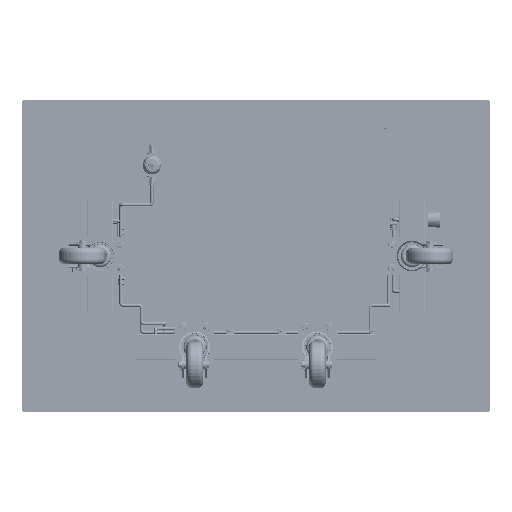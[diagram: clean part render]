
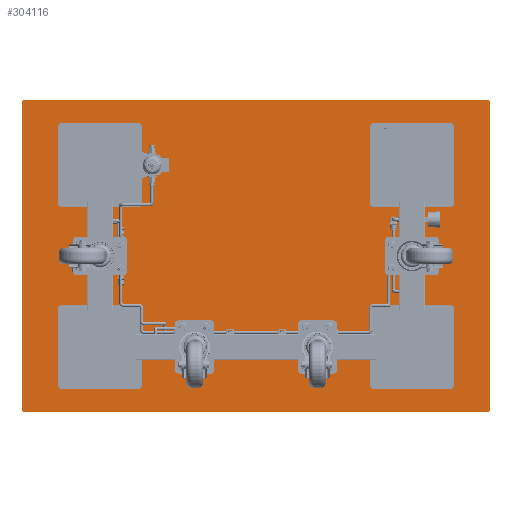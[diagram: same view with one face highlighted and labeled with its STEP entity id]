
A CAD part, front view. The second image highlights one B-rep face of the part: STEP entity #304116.
In plain terms, the highlighted planar face has unit normal (0, -1, 0).
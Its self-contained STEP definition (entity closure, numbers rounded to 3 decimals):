
#2189 = VECTOR ( 'NONE', #329105, 1000. ) ;
#10232 = DIRECTION ( 'NONE',  ( -1., 0., 0. ) ) ;
#11492 = VERTEX_POINT ( 'NONE', #322490 ) ;
#19999 = CARTESIAN_POINT ( 'NONE',  ( 450., 700., 295. ) ) ;
#39843 = ORIENTED_EDGE ( 'NONE', *, *, #289978, .F. ) ;
#52224 = AXIS2_PLACEMENT_3D ( 'NONE', #154034, #374374, #185591 ) ;
#57764 = LINE ( 'NONE', #19999, #235204 ) ;
#58341 = DIRECTION ( 'NONE',  ( 0., 1., 0. ) ) ;
#61142 = CARTESIAN_POINT ( 'NONE',  ( -445., 700., -300. ) ) ;
#77622 = EDGE_CURVE ( 'NONE', #267279, #284859, #330890, .T. ) ;
#82677 = CIRCLE ( 'NONE', #227233, 5. ) ;
#105727 = CARTESIAN_POINT ( 'NONE',  ( -445., 700., 300. ) ) ;
#120827 = VECTOR ( 'NONE', #406858, 1000. ) ;
#124964 = VERTEX_POINT ( 'NONE', #219047 ) ;
#134156 = VERTEX_POINT ( 'NONE', #360869 ) ;
#140451 = CARTESIAN_POINT ( 'NONE',  ( -450., 700., 295. ) ) ;
#144813 = DIRECTION ( 'NONE',  ( 0., 1., 0. ) ) ;
#148581 = AXIS2_PLACEMENT_3D ( 'NONE', #181942, #402392, #213641 ) ;
#149015 = CARTESIAN_POINT ( 'NONE',  ( 445., 700., -300. ) ) ;
#154034 = CARTESIAN_POINT ( 'NONE',  ( 445., 700., 295. ) ) ;
#155446 = VECTOR ( 'NONE', #324733, 1000. ) ;
#159832 = LINE ( 'NONE', #140451, #2189 ) ;
#165333 = LINE ( 'NONE', #105727, #155446 ) ;
#181942 = CARTESIAN_POINT ( 'NONE',  ( -445., 700., -295. ) ) ;
#185591 = DIRECTION ( 'NONE',  ( 1., 0., 0. ) ) ;
#194330 = ORIENTED_EDGE ( 'NONE', *, *, #387688, .F. ) ;
#196052 = FACE_OUTER_BOUND ( 'NONE', #234395, .T. ) ;
#198828 = DIRECTION ( 'NONE',  ( 0., -1., 0. ) ) ;
#204647 = LINE ( 'NONE', #61142, #120827 ) ;
#208628 = DIRECTION ( 'NONE',  ( 0., 0., -1. ) ) ;
#213641 = DIRECTION ( 'NONE',  ( -1., 0., 0. ) ) ;
#219047 = CARTESIAN_POINT ( 'NONE',  ( 450., 700., -295. ) ) ;
#227233 = AXIS2_PLACEMENT_3D ( 'NONE', #247020, #58341, #278672 ) ;
#233188 = AXIS2_PLACEMENT_3D ( 'NONE', #387588, #198828, #10232 ) ;
#234395 = EDGE_LOOP ( 'NONE', ( #337785, #388288, #39843, #259458, #266870, #298201, #194330, #314326 ) ) ;
#235204 = VECTOR ( 'NONE', #208628, 1000. ) ;
#244644 = CARTESIAN_POINT ( 'NONE',  ( -450., 700., -295. ) ) ;
#247020 = CARTESIAN_POINT ( 'NONE',  ( 445., 700., -295. ) ) ;
#250285 = EDGE_CURVE ( 'NONE', #306795, #295942, #204647, .T. ) ;
#259458 = ORIENTED_EDGE ( 'NONE', *, *, #274111, .F. ) ;
#266870 = ORIENTED_EDGE ( 'NONE', *, *, #77622, .F. ) ;
#267279 = VERTEX_POINT ( 'NONE', #321470 ) ;
#274111 = EDGE_CURVE ( 'NONE', #284859, #11492, #165333, .T. ) ;
#274382 = VERTEX_POINT ( 'NONE', #244644 ) ;
#278672 = DIRECTION ( 'NONE',  ( -1., 0., 0. ) ) ;
#280732 = CIRCLE ( 'NONE', #148581, 5. ) ;
#282342 = EDGE_CURVE ( 'NONE', #124964, #306795, #82677, .T. ) ;
#284859 = VERTEX_POINT ( 'NONE', #365656 ) ;
#288555 = AXIS2_PLACEMENT_3D ( 'NONE', #333456, #144813, #365140 ) ;
#289978 = EDGE_CURVE ( 'NONE', #11492, #134156, #357244, .T. ) ;
#295942 = VERTEX_POINT ( 'NONE', #334472 ) ;
#298201 = ORIENTED_EDGE ( 'NONE', *, *, #399320, .F. ) ;
#304116 = ADVANCED_FACE ( 'NONE', ( #196052 ), #324169, .T. ) ;
#306795 = VERTEX_POINT ( 'NONE', #149015 ) ;
#314326 = ORIENTED_EDGE ( 'NONE', *, *, #250285, .F. ) ;
#321470 = CARTESIAN_POINT ( 'NONE',  ( -450., 700., 295. ) ) ;
#322490 = CARTESIAN_POINT ( 'NONE',  ( 445., 700., 300. ) ) ;
#324169 = PLANE ( 'NONE',  #233188 ) ;
#324733 = DIRECTION ( 'NONE',  ( 1., 0., 0. ) ) ;
#329105 = DIRECTION ( 'NONE',  ( 0., 0., 1. ) ) ;
#330890 = CIRCLE ( 'NONE', #288555, 5. ) ;
#333456 = CARTESIAN_POINT ( 'NONE',  ( -445., 700., 295. ) ) ;
#334472 = CARTESIAN_POINT ( 'NONE',  ( -445., 700., -300. ) ) ;
#337785 = ORIENTED_EDGE ( 'NONE', *, *, #282342, .F. ) ;
#357244 = CIRCLE ( 'NONE', #52224, 5. ) ;
#360869 = CARTESIAN_POINT ( 'NONE',  ( 450., 700., 295. ) ) ;
#365140 = DIRECTION ( 'NONE',  ( -1., 0., 0. ) ) ;
#365656 = CARTESIAN_POINT ( 'NONE',  ( -445., 700., 300. ) ) ;
#374374 = DIRECTION ( 'NONE',  ( 0., 1., 0. ) ) ;
#387588 = CARTESIAN_POINT ( 'NONE',  ( 445., 700., -295. ) ) ;
#387688 = EDGE_CURVE ( 'NONE', #295942, #274382, #280732, .T. ) ;
#388288 = ORIENTED_EDGE ( 'NONE', *, *, #406922, .F. ) ;
#399320 = EDGE_CURVE ( 'NONE', #274382, #267279, #159832, .T. ) ;
#402392 = DIRECTION ( 'NONE',  ( 0., 1., 0. ) ) ;
#406858 = DIRECTION ( 'NONE',  ( -1., 0., 0. ) ) ;
#406922 = EDGE_CURVE ( 'NONE', #134156, #124964, #57764, .T. ) ;
